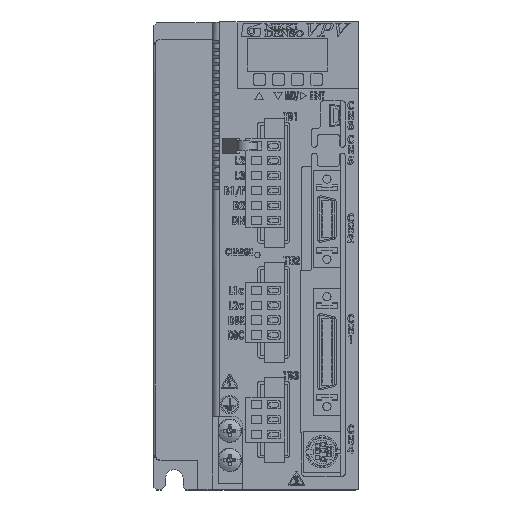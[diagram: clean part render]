
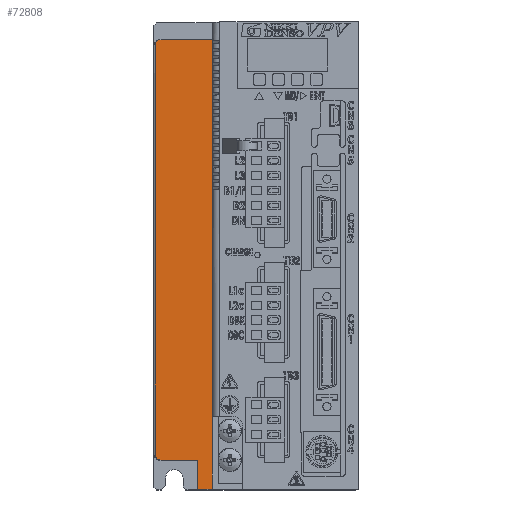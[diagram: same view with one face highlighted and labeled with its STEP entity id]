
A CAD part, top view. The second image highlights one B-rep face of the part: STEP entity #72808.
In plain terms, the highlighted planar face has unit normal (0, 0, 1).
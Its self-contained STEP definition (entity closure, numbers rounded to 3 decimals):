
#414 = CARTESIAN_POINT ( 'NONE',  ( -69.5, -149., 151.5 ) ) ;
#8686 = DIRECTION ( 'NONE',  ( 0., 1., 0. ) ) ;
#9081 = VECTOR ( 'NONE', #8686, 1000. ) ;
#9083 = EDGE_CURVE ( 'NONE', #117955, #102469, #38813, .T. ) ;
#13308 = LINE ( 'NONE', #149659, #28486 ) ;
#17569 = AXIS2_PLACEMENT_3D ( 'NONE', #148943, #86500, #25562 ) ;
#18531 = CARTESIAN_POINT ( 'NONE',  ( -67.5, -150., 151.5 ) ) ;
#19106 = LINE ( 'NONE', #29695, #96631 ) ;
#19284 = CARTESIAN_POINT ( 'NONE',  ( -50., -160., 151.5 ) ) ;
#21340 = VERTEX_POINT ( 'NONE', #39411 ) ;
#23666 = EDGE_CURVE ( 'NONE', #21340, #117955, #77794, .T. ) ;
#25459 = CARTESIAN_POINT ( 'NONE',  ( -55., -150., 151.5 ) ) ;
#25562 = DIRECTION ( 'NONE',  ( -1., 0., 0. ) ) ;
#26034 = CARTESIAN_POINT ( 'NONE',  ( -55., -160., 151.5 ) ) ;
#28486 = VECTOR ( 'NONE', #38471, 1000. ) ;
#29695 = CARTESIAN_POINT ( 'NONE',  ( -55., -150., 151.5 ) ) ;
#31678 = CIRCLE ( 'NONE', #158745, 2.5 ) ;
#33039 = CARTESIAN_POINT ( 'NONE',  ( -50., -160., 151.5 ) ) ;
#33821 = VERTEX_POINT ( 'NONE', #18531 ) ;
#33941 = ORIENTED_EDGE ( 'NONE', *, *, #155590, .T. ) ;
#36943 = PLANE ( 'NONE',  #17569 ) ;
#37443 = DIRECTION ( 'NONE',  ( -1., 0., 0. ) ) ;
#38471 = DIRECTION ( 'NONE',  ( 0., 1., 0. ) ) ;
#38813 = LINE ( 'NONE', #137037, #142214 ) ;
#39411 = CARTESIAN_POINT ( 'NONE',  ( -69.5, -7., 151.5 ) ) ;
#40541 = CARTESIAN_POINT ( 'NONE',  ( -67.5, -6., 151.5 ) ) ;
#45559 = EDGE_CURVE ( 'NONE', #156875, #21340, #13308, .T. ) ;
#56207 = CARTESIAN_POINT ( 'NONE',  ( -50., -160., 151.5 ) ) ;
#56341 = DIRECTION ( 'NONE',  ( 0., 0., -1. ) ) ;
#57738 = ORIENTED_EDGE ( 'NONE', *, *, #77161, .F. ) ;
#68071 = ORIENTED_EDGE ( 'NONE', *, *, #23666, .F. ) ;
#70626 = VECTOR ( 'NONE', #70760, 1000. ) ;
#70760 = DIRECTION ( 'NONE',  ( -1., 0., 0. ) ) ;
#72808 = ADVANCED_FACE ( 'NONE', ( #100274 ), #36943, .F. ) ;
#73185 = CARTESIAN_POINT ( 'NONE',  ( -67.5, -147.5, 151.5 ) ) ;
#75437 = ORIENTED_EDGE ( 'NONE', *, *, #9083, .F. ) ;
#76924 = DIRECTION ( 'NONE',  ( -1., 0., 0. ) ) ;
#77159 = ORIENTED_EDGE ( 'NONE', *, *, #97729, .F. ) ;
#77161 = EDGE_CURVE ( 'NONE', #81798, #33821, #19106, .T. ) ;
#77794 = CIRCLE ( 'NONE', #90777, 2.5 ) ;
#81798 = VERTEX_POINT ( 'NONE', #25459 ) ;
#82268 = CARTESIAN_POINT ( 'NONE',  ( -55., -160., 151.5 ) ) ;
#86133 = ORIENTED_EDGE ( 'NONE', *, *, #93173, .F. ) ;
#86500 = DIRECTION ( 'NONE',  ( 0., 0., -1. ) ) ;
#89672 = ORIENTED_EDGE ( 'NONE', *, *, #97580, .F. ) ;
#90337 = VECTOR ( 'NONE', #158357, 1000. ) ;
#90777 = AXIS2_PLACEMENT_3D ( 'NONE', #155319, #56341, #76924 ) ;
#92829 = CARTESIAN_POINT ( 'NONE',  ( -50., -6., 151.5 ) ) ;
#93173 = EDGE_CURVE ( 'NONE', #123572, #81798, #124266, .T. ) ;
#96631 = VECTOR ( 'NONE', #115748, 1000. ) ;
#96718 = DIRECTION ( 'NONE',  ( 0., 0., -1. ) ) ;
#97580 = EDGE_CURVE ( 'NONE', #140852, #123572, #141446, .T. ) ;
#97729 = EDGE_CURVE ( 'NONE', #33821, #156875, #31678, .T. ) ;
#100274 = FACE_OUTER_BOUND ( 'NONE', #119186, .T. ) ;
#102469 = VERTEX_POINT ( 'NONE', #92829 ) ;
#115748 = DIRECTION ( 'NONE',  ( -1., 0., 0. ) ) ;
#117955 = VERTEX_POINT ( 'NONE', #40541 ) ;
#119186 = EDGE_LOOP ( 'NONE', ( #75437, #68071, #142417, #77159, #57738, #86133, #89672, #33941 ) ) ;
#123572 = VERTEX_POINT ( 'NONE', #82268 ) ;
#124266 = LINE ( 'NONE', #26034, #90337 ) ;
#137037 = CARTESIAN_POINT ( 'NONE',  ( -50., -6., 151.5 ) ) ;
#137824 = DIRECTION ( 'NONE',  ( 1., 0., 0. ) ) ;
#140852 = VERTEX_POINT ( 'NONE', #33039 ) ;
#141446 = LINE ( 'NONE', #56207, #70626 ) ;
#142214 = VECTOR ( 'NONE', #137824, 1000. ) ;
#142417 = ORIENTED_EDGE ( 'NONE', *, *, #45559, .F. ) ;
#145024 = LINE ( 'NONE', #19284, #9081 ) ;
#148943 = CARTESIAN_POINT ( 'NONE',  ( -50., -160., 151.5 ) ) ;
#149659 = CARTESIAN_POINT ( 'NONE',  ( -69.5, -160., 151.5 ) ) ;
#155319 = CARTESIAN_POINT ( 'NONE',  ( -67.5, -8.5, 151.5 ) ) ;
#155590 = EDGE_CURVE ( 'NONE', #140852, #102469, #145024, .T. ) ;
#156875 = VERTEX_POINT ( 'NONE', #414 ) ;
#158357 = DIRECTION ( 'NONE',  ( 0., 1., 0. ) ) ;
#158745 = AXIS2_PLACEMENT_3D ( 'NONE', #73185, #96718, #37443 ) ;
